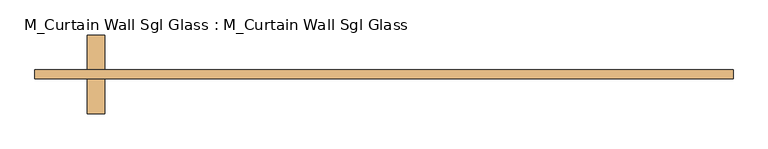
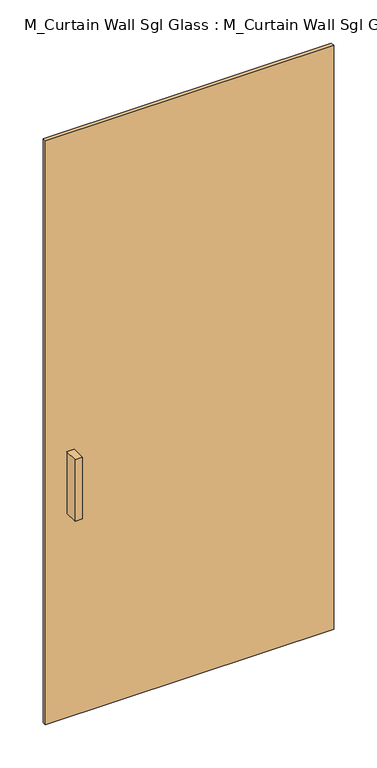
"""IFC4 building model written with IfcOpenShell, lengths in millimetres: door geometry, M_Curtain Wall Sgl Glass : M_Curtain Wall Sgl Glass."""

from ifc_helpers import new_model, si_unit, frame, origin, origin_with_axes, place, context, project, spatial, polyline, outline, extrude, source, transform, mapped, element, save


def m_curtain_wall_sgl_glass_m_curtain_wall_sgl_glass_f4fa41e6(model_context):
    return source(origin(), model_context, "Body", "SweptSolid", [
        extrude(outline(polyline([(-405.9, 12.5), (-405.9, -38.3), (-431.3, -38.3), (-431.3, 12.5), (-405.9, 12.5)])), frame((0.0, 0.0, 762.0), z_axis=(0.0, 0.0, 1.0), x_axis=(1.0, 0.0, 0.0)), (0.0, 0.0, 1.0), 228.6),
        extrude(outline(polyline([(-431.3, -101.8), (-431.3, -51.0), (-405.9, -51.0), (-405.9, -101.8), (-431.3, -101.8)])), frame((0.0, 0.0, 762.0), z_axis=(0.0, 0.0, 1.0), x_axis=(1.0, 0.0, 0.0)), (0.0, 0.0, 1.0), 228.6),
        extrude(outline(polyline([(507.5, -51.0), (-507.5, -51.0), (-507.5, -38.3), (507.5, -38.3), (507.5, -51.0)])), origin_with_axes(), (0.0, 0.0, 1.0), 2175.0),
    ])


if __name__ == "__main__":
    model = new_model("IFC4")
    model_context = context("Model", 3, world=origin())
    ifc_project = project(units=[si_unit("LENGTHUNIT", "METRE", prefix="MILLI")], contexts=[model_context])
    site = spatial("IfcSite", under=ifc_project)
    building = spatial("IfcBuilding", under=site)
    placement = place(None, origin())
    m_curtain_wall_sgl_glass_m_curtain_wall_sgl_glass_shape = m_curtain_wall_sgl_glass_m_curtain_wall_sgl_glass_f4fa41e6(model_context)
    element("IfcDoor", 1, ObjectType="M_Curtain Wall Sgl Glass : M_Curtain Wall Sgl Glass", at=placement, inside=building, context=model_context, shape_type="MappedRepresentation", body=[
        mapped(m_curtain_wall_sgl_glass_m_curtain_wall_sgl_glass_shape, transform((0.0, 0.0, 0.0), x_axis=(1.0, 0.0, 0.0), y_axis=(0.0, 1.0, 0.0), z_axis=(0.0, 0.0, 1.0))),
    ])
    save(model, "model.ifc")
